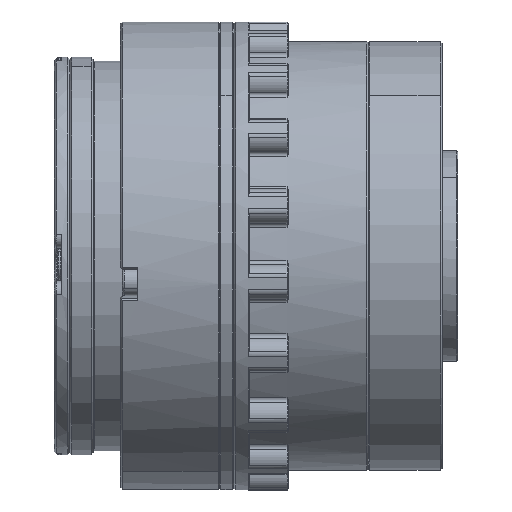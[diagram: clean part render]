
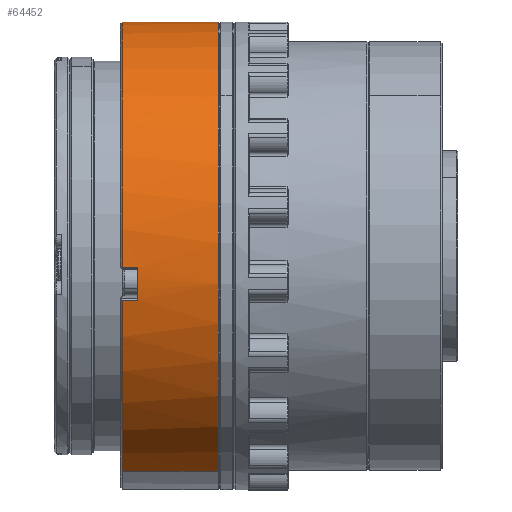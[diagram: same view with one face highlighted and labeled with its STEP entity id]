
A CAD part, left-side view. The second image highlights one B-rep face of the part: STEP entity #64452.
In plain terms, the highlighted cylindrical face has radius 60 mm (diameter 120 mm), a partial arc.
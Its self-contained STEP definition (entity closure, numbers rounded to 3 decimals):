
#281 = DIRECTION ( 'NONE',  ( -0.393, 0., -0.919 ) ) ;
#607 = VECTOR ( 'NONE', #63303, 1000. ) ;
#2096 = CIRCLE ( 'NONE', #29205, 60. ) ;
#3153 = DIRECTION ( 'NONE',  ( 0., -1., 0. ) ) ;
#3279 = ORIENTED_EDGE ( 'NONE', *, *, #38147, .T. ) ;
#4164 = AXIS2_PLACEMENT_3D ( 'NONE', #37455, #17883, #7450 ) ;
#4704 = CARTESIAN_POINT ( 'NONE',  ( 41.852, -13.272, 51.88 ) ) ;
#7450 = DIRECTION ( 'NONE',  ( -0.393, 0., -0.919 ) ) ;
#8434 = FACE_OUTER_BOUND ( 'NONE', #34035, .T. ) ;
#9629 = CARTESIAN_POINT ( 'NONE',  ( -41.684, -9.272, -6.209 ) ) ;
#9746 = VERTEX_POINT ( 'NONE', #22470 ) ;
#9977 = VECTOR ( 'NONE', #48464, 1000. ) ;
#11576 = DIRECTION ( 'NONE',  ( 0., 1., 0. ) ) ;
#12398 = VERTEX_POINT ( 'NONE', #12826 ) ;
#12493 = CARTESIAN_POINT ( 'NONE',  ( 18.244, -13.272, -3.281 ) ) ;
#12548 = ORIENTED_EDGE ( 'NONE', *, *, #26066, .T. ) ;
#12731 = CIRCLE ( 'NONE', #45027, 60. ) ;
#12826 = CARTESIAN_POINT ( 'NONE',  ( 37.915, -13.272, 53.403 ) ) ;
#14144 = CARTESIAN_POINT ( 'NONE',  ( 41.852, -33.872, 51.88 ) ) ;
#15367 = AXIS2_PLACEMENT_3D ( 'NONE', #22366, #3153, #62125 ) ;
#15491 = ORIENTED_EDGE ( 'NONE', *, *, #18645, .T. ) ;
#15494 = VECTOR ( 'NONE', #11576, 1000. ) ;
#17435 = LINE ( 'NONE', #61425, #15494 ) ;
#17883 = DIRECTION ( 'NONE',  ( 0., -1., 0. ) ) ;
#18645 = EDGE_CURVE ( 'NONE', #64005, #36139, #2096, .T. ) ;
#20061 = ORIENTED_EDGE ( 'NONE', *, *, #31727, .T. ) ;
#21649 = CARTESIAN_POINT ( 'NONE',  ( 18.244, -9.272, -3.281 ) ) ;
#22366 = CARTESIAN_POINT ( 'NONE',  ( 18.244, -9.272, -3.281 ) ) ;
#22470 = CARTESIAN_POINT ( 'NONE',  ( 37.915, -9.272, 53.403 ) ) ;
#22684 = VERTEX_POINT ( 'NONE', #14144 ) ;
#23881 = CARTESIAN_POINT ( 'NONE',  ( -5.363, -8.772, -58.441 ) ) ;
#25082 = DIRECTION ( 'NONE',  ( 0., 1., 0. ) ) ;
#25508 = VERTEX_POINT ( 'NONE', #60288 ) ;
#26066 = EDGE_CURVE ( 'NONE', #25508, #22684, #12731, .T. ) ;
#26259 = VERTEX_POINT ( 'NONE', #9629 ) ;
#26635 = CARTESIAN_POINT ( 'NONE',  ( -41.684, -13.272, -6.209 ) ) ;
#26885 = DIRECTION ( 'NONE',  ( 0., -1., 0. ) ) ;
#27899 = CIRCLE ( 'NONE', #15367, 60. ) ;
#29205 = AXIS2_PLACEMENT_3D ( 'NONE', #50154, #29952, #281 ) ;
#29293 = EDGE_CURVE ( 'NONE', #49676, #22684, #42938, .T. ) ;
#29952 = DIRECTION ( 'NONE',  ( 0., -1., 0. ) ) ;
#31198 = DIRECTION ( 'NONE',  ( -0.393, 0., -0.919 ) ) ;
#31727 = EDGE_CURVE ( 'NONE', #12398, #9746, #63544, .T. ) ;
#31892 = CIRCLE ( 'NONE', #51655, 60. ) ;
#32370 = DIRECTION ( 'NONE',  ( 0., -1., 0. ) ) ;
#33580 = EDGE_CURVE ( 'NONE', #9746, #26259, #31892, .T. ) ;
#34035 = EDGE_LOOP ( 'NONE', ( #55299, #3279, #20061, #48131, #44305, #15491, #52733, #34195, #45745, #12548 ) ) ;
#34195 = ORIENTED_EDGE ( 'NONE', *, *, #59815, .T. ) ;
#34866 = EDGE_CURVE ( 'NONE', #26259, #64005, #43182, .T. ) ;
#36139 = VERTEX_POINT ( 'NONE', #61823 ) ;
#36559 = EDGE_CURVE ( 'NONE', #36139, #46942, #17435, .T. ) ;
#37455 = CARTESIAN_POINT ( 'NONE',  ( 18.244, -8.772, -3.281 ) ) ;
#38147 = EDGE_CURVE ( 'NONE', #49676, #12398, #51970, .T. ) ;
#38852 = LINE ( 'NONE', #23881, #607 ) ;
#39740 = CARTESIAN_POINT ( 'NONE',  ( 37.915, -8.772, 53.403 ) ) ;
#40899 = DIRECTION ( 'NONE',  ( 0.393, 0., 0.919 ) ) ;
#42053 = EDGE_CURVE ( 'NONE', #56329, #25508, #38852, .T. ) ;
#42938 = LINE ( 'NONE', #62482, #9977 ) ;
#43126 = DIRECTION ( 'NONE',  ( -0.393, 0., -0.919 ) ) ;
#43182 = LINE ( 'NONE', #48083, #52842 ) ;
#44305 = ORIENTED_EDGE ( 'NONE', *, *, #34866, .T. ) ;
#45027 = AXIS2_PLACEMENT_3D ( 'NONE', #50755, #60827, #31198 ) ;
#45745 = ORIENTED_EDGE ( 'NONE', *, *, #42053, .T. ) ;
#46942 = VERTEX_POINT ( 'NONE', #54276 ) ;
#48083 = CARTESIAN_POINT ( 'NONE',  ( -41.684, -8.772, -6.209 ) ) ;
#48131 = ORIENTED_EDGE ( 'NONE', *, *, #33580, .T. ) ;
#48464 = DIRECTION ( 'NONE',  ( 0., -1., 0. ) ) ;
#49676 = VERTEX_POINT ( 'NONE', #4704 ) ;
#50154 = CARTESIAN_POINT ( 'NONE',  ( 18.244, -13.272, -3.281 ) ) ;
#50755 = CARTESIAN_POINT ( 'NONE',  ( 18.244, -33.872, -3.281 ) ) ;
#51655 = AXIS2_PLACEMENT_3D ( 'NONE', #21649, #26885, #40899 ) ;
#51970 = CIRCLE ( 'NONE', #63415, 60. ) ;
#52733 = ORIENTED_EDGE ( 'NONE', *, *, #36559, .T. ) ;
#52842 = VECTOR ( 'NONE', #63381, 1000. ) ;
#54276 = CARTESIAN_POINT ( 'NONE',  ( -40.681, -9.272, -14.587 ) ) ;
#55299 = ORIENTED_EDGE ( 'NONE', *, *, #29293, .F. ) ;
#56329 = VERTEX_POINT ( 'NONE', #58814 ) ;
#58814 = CARTESIAN_POINT ( 'NONE',  ( -5.363, -9.272, -58.441 ) ) ;
#59815 = EDGE_CURVE ( 'NONE', #46942, #56329, #27899, .T. ) ;
#59933 = VECTOR ( 'NONE', #25082, 1000. ) ;
#60288 = CARTESIAN_POINT ( 'NONE',  ( -5.363, -33.872, -58.441 ) ) ;
#60827 = DIRECTION ( 'NONE',  ( 0., 1., 0. ) ) ;
#61425 = CARTESIAN_POINT ( 'NONE',  ( -40.681, -8.772, -14.587 ) ) ;
#61823 = CARTESIAN_POINT ( 'NONE',  ( -40.681, -13.272, -14.587 ) ) ;
#62125 = DIRECTION ( 'NONE',  ( 0.393, 0., 0.919 ) ) ;
#62482 = CARTESIAN_POINT ( 'NONE',  ( 41.852, -8.772, 51.88 ) ) ;
#63165 = CYLINDRICAL_SURFACE ( 'NONE', #4164, 60. ) ;
#63303 = DIRECTION ( 'NONE',  ( 0., -1., 0. ) ) ;
#63381 = DIRECTION ( 'NONE',  ( 0., -1., 0. ) ) ;
#63415 = AXIS2_PLACEMENT_3D ( 'NONE', #12493, #32370, #43126 ) ;
#63544 = LINE ( 'NONE', #39740, #59933 ) ;
#64005 = VERTEX_POINT ( 'NONE', #26635 ) ;
#64452 = ADVANCED_FACE ( 'NONE', ( #8434 ), #63165, .T. ) ;
